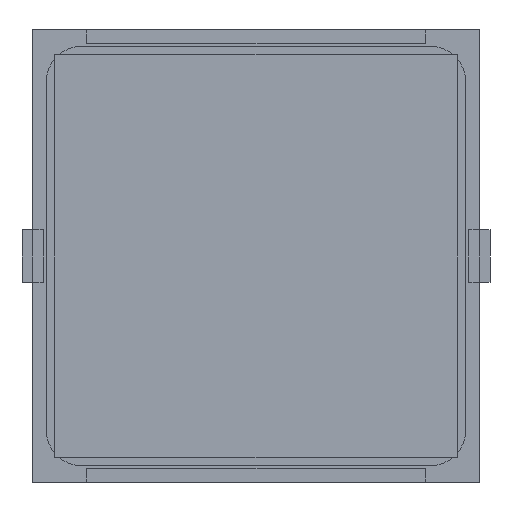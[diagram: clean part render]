
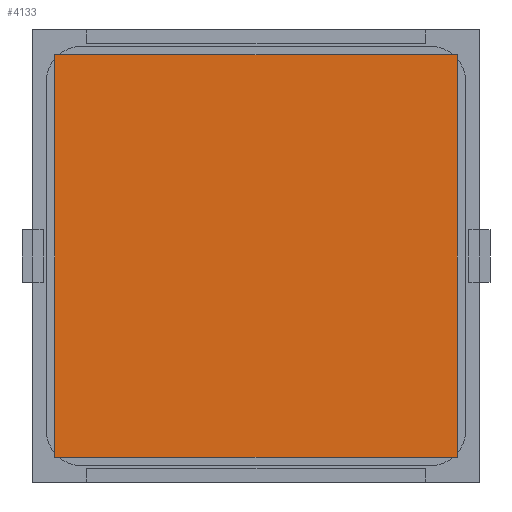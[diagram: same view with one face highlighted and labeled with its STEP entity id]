
A CAD part, front view. The second image highlights one B-rep face of the part: STEP entity #4133.
In plain terms, the highlighted planar face has unit normal (0, -1, 0).
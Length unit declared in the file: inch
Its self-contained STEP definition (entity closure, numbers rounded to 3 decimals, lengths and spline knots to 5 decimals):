
#111 = CARTESIAN_POINT ( 'NONE',  ( -0.74803, -0.005, 0.74803 ) ) ;
#121 = VERTEX_POINT ( 'NONE', #3971 ) ;
#185 = ORIENTED_EDGE ( 'NONE', *, *, #4081, .F. ) ;
#424 = LINE ( 'NONE', #4862, #9046 ) ;
#1670 = CARTESIAN_POINT ( 'NONE',  ( -0.74803, -0.005, 0.74803 ) ) ;
#2332 = EDGE_CURVE ( 'NONE', #3522, #3534, #9354, .T. ) ;
#3155 = EDGE_CURVE ( 'NONE', #6985, #3522, #6323, .T. ) ;
#3270 = DIRECTION ( 'NONE',  ( 0., 0., 1. ) ) ;
#3509 = FACE_OUTER_BOUND ( 'NONE', #9518, .T. ) ;
#3522 = VERTEX_POINT ( 'NONE', #1670 ) ;
#3534 = VERTEX_POINT ( 'NONE', #8100 ) ;
#3971 = CARTESIAN_POINT ( 'NONE',  ( 0.74803, -0.005, -0.74803 ) ) ;
#4081 = EDGE_CURVE ( 'NONE', #3534, #121, #424, .T. ) ;
#4133 = ADVANCED_FACE ( 'NONE', ( #3509 ), #8006, .F. ) ;
#4172 = AXIS2_PLACEMENT_3D ( 'NONE', #9725, #9987, #3270 ) ;
#4646 = VECTOR ( 'NONE', #9415, 39.37008 ) ;
#4785 = DIRECTION ( 'NONE',  ( 1., 0., 0. ) ) ;
#4849 = CARTESIAN_POINT ( 'NONE',  ( -0.74803, -0.005, -0.74803 ) ) ;
#4862 = CARTESIAN_POINT ( 'NONE',  ( 0.74803, -0.005, -0.74803 ) ) ;
#5507 = CARTESIAN_POINT ( 'NONE',  ( -0.74803, -0.005, -0.74803 ) ) ;
#5603 = VECTOR ( 'NONE', #4785, 39.37008 ) ;
#5972 = EDGE_CURVE ( 'NONE', #121, #6985, #8550, .T. ) ;
#6323 = LINE ( 'NONE', #8276, #9948 ) ;
#6985 = VERTEX_POINT ( 'NONE', #5507 ) ;
#8006 = PLANE ( 'NONE',  #4172 ) ;
#8100 = CARTESIAN_POINT ( 'NONE',  ( 0.74803, -0.005, 0.74803 ) ) ;
#8168 = ORIENTED_EDGE ( 'NONE', *, *, #3155, .F. ) ;
#8276 = CARTESIAN_POINT ( 'NONE',  ( -0.74803, -0.005, -0.74803 ) ) ;
#8550 = LINE ( 'NONE', #4849, #4646 ) ;
#9046 = VECTOR ( 'NONE', #10548, 39.37008 ) ;
#9282 = ORIENTED_EDGE ( 'NONE', *, *, #2332, .F. ) ;
#9354 = LINE ( 'NONE', #111, #5603 ) ;
#9415 = DIRECTION ( 'NONE',  ( -1., 0., 0. ) ) ;
#9518 = EDGE_LOOP ( 'NONE', ( #8168, #10914, #185, #9282 ) ) ;
#9725 = CARTESIAN_POINT ( 'NONE',  ( -0.74803, -0.005, 0.74803 ) ) ;
#9948 = VECTOR ( 'NONE', #11865, 39.37008 ) ;
#9987 = DIRECTION ( 'NONE',  ( 0., 1., 0. ) ) ;
#10548 = DIRECTION ( 'NONE',  ( 0., 0., -1. ) ) ;
#10914 = ORIENTED_EDGE ( 'NONE', *, *, #5972, .F. ) ;
#11865 = DIRECTION ( 'NONE',  ( 0., 0., 1. ) ) ;
